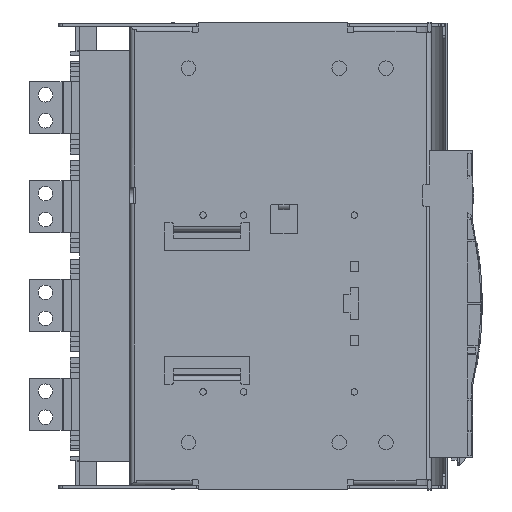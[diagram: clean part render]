
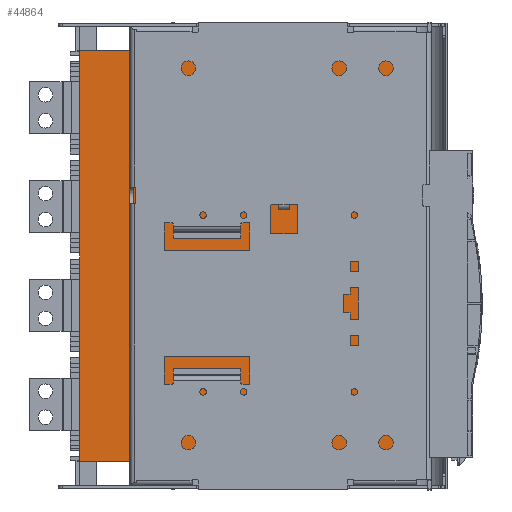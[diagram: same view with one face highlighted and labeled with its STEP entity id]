
A CAD part, front view. The second image highlights one B-rep face of the part: STEP entity #44864.
In plain terms, the highlighted planar face has unit normal (0, -1, 0).
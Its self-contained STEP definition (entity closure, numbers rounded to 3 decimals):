
#510 = ORIENTED_EDGE ( 'NONE', *, *, #69627, .F. ) ;
#1213 = ORIENTED_EDGE ( 'NONE', *, *, #48676, .F. ) ;
#1233 = VERTEX_POINT ( 'NONE', #19082 ) ;
#1455 = LINE ( 'NONE', #71599, #60189 ) ;
#1661 = LINE ( 'NONE', #10280, #85812 ) ;
#2393 = DIRECTION ( 'NONE',  ( 0., 0., -1. ) ) ;
#4701 = LINE ( 'NONE', #90667, #87469 ) ;
#5225 = ORIENTED_EDGE ( 'NONE', *, *, #50049, .T. ) ;
#5983 = VECTOR ( 'NONE', #37550, 1000. ) ;
#6451 = ORIENTED_EDGE ( 'NONE', *, *, #90234, .T. ) ;
#6669 = VERTEX_POINT ( 'NONE', #81839 ) ;
#7259 = EDGE_CURVE ( 'NONE', #1233, #75894, #30712, .T. ) ;
#8349 = VECTOR ( 'NONE', #13803, 1000. ) ;
#10157 = EDGE_CURVE ( 'NONE', #46486, #67934, #100780, .T. ) ;
#10280 = CARTESIAN_POINT ( 'NONE',  ( 264.156, 215.613, 284.898 ) ) ;
#10599 = CARTESIAN_POINT ( 'NONE',  ( 212.646, 215.613, 245.93 ) ) ;
#11008 = LINE ( 'NONE', #40650, #13534 ) ;
#11365 = ORIENTED_EDGE ( 'NONE', *, *, #18740, .T. ) ;
#11772 = DIRECTION ( 'NONE',  ( 0., -1., 0. ) ) ;
#12267 = LINE ( 'NONE', #47244, #8349 ) ;
#13534 = VECTOR ( 'NONE', #40309, 1000. ) ;
#13535 = CARTESIAN_POINT ( 'NONE',  ( 260.956, 215.613, 189.113 ) ) ;
#13803 = DIRECTION ( 'NONE',  ( 0., 0., -1. ) ) ;
#14701 = CARTESIAN_POINT ( 'NONE',  ( 999.802, 215.613, 245.93 ) ) ;
#15183 = CARTESIAN_POINT ( 'NONE',  ( 526.457, 215.613, -149.154 ) ) ;
#15292 = DIRECTION ( 'NONE',  ( -1., 0., 0. ) ) ;
#16839 = VERTEX_POINT ( 'NONE', #53387 ) ;
#18740 = EDGE_CURVE ( 'NONE', #86647, #89015, #1455, .T. ) ;
#19082 = CARTESIAN_POINT ( 'NONE',  ( 526.457, 215.613, 149.688 ) ) ;
#19140 = DIRECTION ( 'NONE',  ( 0., 0., 1. ) ) ;
#21786 = CARTESIAN_POINT ( 'NONE',  ( 260.956, 215.613, 245.93 ) ) ;
#21800 = ORIENTED_EDGE ( 'NONE', *, *, #34006, .F. ) ;
#22678 = DIRECTION ( 'NONE',  ( 0., 0., 1. ) ) ;
#23763 = CARTESIAN_POINT ( 'NONE',  ( 999.802, 215.613, -149.154 ) ) ;
#26910 = LINE ( 'NONE', #45141, #48551 ) ;
#27864 = VERTEX_POINT ( 'NONE', #30322 ) ;
#28499 = LINE ( 'NONE', #13535, #93494 ) ;
#28716 = AXIS2_PLACEMENT_3D ( 'NONE', #92202, #11772, #100362 ) ;
#30204 = VERTEX_POINT ( 'NONE', #45540 ) ;
#30322 = CARTESIAN_POINT ( 'NONE',  ( 526.457, 215.613, -149.154 ) ) ;
#30712 = LINE ( 'NONE', #15183, #66450 ) ;
#31177 = DIRECTION ( 'NONE',  ( -1., 0., 0. ) ) ;
#32027 = EDGE_CURVE ( 'NONE', #27864, #6669, #26910, .T. ) ;
#32689 = VECTOR ( 'NONE', #55951, 1000. ) ;
#34006 = EDGE_CURVE ( 'NONE', #100664, #46486, #28499, .T. ) ;
#35263 = PLANE ( 'NONE',  #28716 ) ;
#37550 = DIRECTION ( 'NONE',  ( -1., 0., 0. ) ) ;
#38031 = FACE_OUTER_BOUND ( 'NONE', #59972, .T. ) ;
#38663 = ORIENTED_EDGE ( 'NONE', *, *, #32027, .T. ) ;
#40309 = DIRECTION ( 'NONE',  ( 0., 0., -1. ) ) ;
#40430 = ORIENTED_EDGE ( 'NONE', *, *, #64371, .F. ) ;
#40650 = CARTESIAN_POINT ( 'NONE',  ( 264.156, 215.613, 284.898 ) ) ;
#41166 = ORIENTED_EDGE ( 'NONE', *, *, #7259, .T. ) ;
#41582 = LINE ( 'NONE', #23763, #54449 ) ;
#43895 = ORIENTED_EDGE ( 'NONE', *, *, #10157, .F. ) ;
#44864 = ADVANCED_FACE ( 'NONE', ( #38031 ), #35263, .T. ) ;
#45141 = CARTESIAN_POINT ( 'NONE',  ( 526.457, 215.613, -149.154 ) ) ;
#45540 = CARTESIAN_POINT ( 'NONE',  ( 260.956, 215.613, 221.262 ) ) ;
#45818 = VERTEX_POINT ( 'NONE', #84661 ) ;
#46486 = VERTEX_POINT ( 'NONE', #105175 ) ;
#47244 = CARTESIAN_POINT ( 'NONE',  ( 260.956, 215.613, 284.898 ) ) ;
#48551 = VECTOR ( 'NONE', #85090, 1000. ) ;
#48676 = EDGE_CURVE ( 'NONE', #30204, #90899, #76109, .T. ) ;
#49364 = LINE ( 'NONE', #14701, #69891 ) ;
#50049 = EDGE_CURVE ( 'NONE', #100664, #45818, #1661, .T. ) ;
#51050 = EDGE_CURVE ( 'NONE', #16839, #90899, #11008, .T. ) ;
#52143 = CARTESIAN_POINT ( 'NONE',  ( 212.646, 215.613, -149.154 ) ) ;
#52418 = VERTEX_POINT ( 'NONE', #52143 ) ;
#53387 = CARTESIAN_POINT ( 'NONE',  ( 264.156, 215.613, 245.93 ) ) ;
#54449 = VECTOR ( 'NONE', #31177, 1000. ) ;
#55951 = DIRECTION ( 'NONE',  ( 1., 0., 0. ) ) ;
#58272 = LINE ( 'NONE', #86354, #5983 ) ;
#59972 = EDGE_LOOP ( 'NONE', ( #43895, #21800, #5225, #78964, #38663, #40430, #41166, #6451, #63024, #1213, #92991, #11365, #84050, #510 ) ) ;
#60189 = VECTOR ( 'NONE', #15292, 1000. ) ;
#62701 = LINE ( 'NONE', #100257, #78059 ) ;
#63024 = ORIENTED_EDGE ( 'NONE', *, *, #51050, .T. ) ;
#63721 = CARTESIAN_POINT ( 'NONE',  ( 260.956, 215.613, 221.262 ) ) ;
#64371 = EDGE_CURVE ( 'NONE', #1233, #6669, #4701, .T. ) ;
#66450 = VECTOR ( 'NONE', #22678, 1000. ) ;
#67934 = VERTEX_POINT ( 'NONE', #86692 ) ;
#69627 = EDGE_CURVE ( 'NONE', #67934, #52418, #58272, .T. ) ;
#69891 = VECTOR ( 'NONE', #80584, 1000. ) ;
#71599 = CARTESIAN_POINT ( 'NONE',  ( 999.802, 215.613, 245.93 ) ) ;
#74722 = DIRECTION ( 'NONE',  ( 0., 0., -1. ) ) ;
#75894 = VERTEX_POINT ( 'NONE', #85249 ) ;
#76109 = LINE ( 'NONE', #63721, #32689 ) ;
#78059 = VECTOR ( 'NONE', #19140, 1000. ) ;
#78160 = CARTESIAN_POINT ( 'NONE',  ( 264.156, 215.613, 189.113 ) ) ;
#78964 = ORIENTED_EDGE ( 'NONE', *, *, #81445, .F. ) ;
#79156 = VECTOR ( 'NONE', #81090, 1000. ) ;
#80584 = DIRECTION ( 'NONE',  ( -1., 0., 0. ) ) ;
#81090 = DIRECTION ( 'NONE',  ( 0., 0., -1. ) ) ;
#81445 = EDGE_CURVE ( 'NONE', #27864, #45818, #41582, .T. ) ;
#81839 = CARTESIAN_POINT ( 'NONE',  ( 526.457, 215.613, -145.312 ) ) ;
#82227 = EDGE_CURVE ( 'NONE', #86647, #30204, #12267, .T. ) ;
#84050 = ORIENTED_EDGE ( 'NONE', *, *, #85753, .F. ) ;
#84661 = CARTESIAN_POINT ( 'NONE',  ( 264.156, 215.613, -149.154 ) ) ;
#85090 = DIRECTION ( 'NONE',  ( 0., 0., 1. ) ) ;
#85249 = CARTESIAN_POINT ( 'NONE',  ( 526.457, 215.613, 245.93 ) ) ;
#85753 = EDGE_CURVE ( 'NONE', #52418, #89015, #62701, .T. ) ;
#85812 = VECTOR ( 'NONE', #2393, 1000. ) ;
#86354 = CARTESIAN_POINT ( 'NONE',  ( 999.802, 215.613, -149.154 ) ) ;
#86647 = VERTEX_POINT ( 'NONE', #21786 ) ;
#86692 = CARTESIAN_POINT ( 'NONE',  ( 260.956, 215.613, -149.154 ) ) ;
#87469 = VECTOR ( 'NONE', #74722, 1000. ) ;
#89015 = VERTEX_POINT ( 'NONE', #10599 ) ;
#90234 = EDGE_CURVE ( 'NONE', #75894, #16839, #49364, .T. ) ;
#90667 = CARTESIAN_POINT ( 'NONE',  ( 526.457, 215.613, 159.188 ) ) ;
#90899 = VERTEX_POINT ( 'NONE', #97109 ) ;
#92202 = CARTESIAN_POINT ( 'NONE',  ( 999.802, 215.613, -149.154 ) ) ;
#92991 = ORIENTED_EDGE ( 'NONE', *, *, #82227, .F. ) ;
#93494 = VECTOR ( 'NONE', #104573, 1000. ) ;
#96015 = CARTESIAN_POINT ( 'NONE',  ( 260.956, 215.613, 284.898 ) ) ;
#97109 = CARTESIAN_POINT ( 'NONE',  ( 264.156, 215.613, 221.262 ) ) ;
#100257 = CARTESIAN_POINT ( 'NONE',  ( 212.646, 215.613, -149.154 ) ) ;
#100362 = DIRECTION ( 'NONE',  ( 0., 0., -1. ) ) ;
#100664 = VERTEX_POINT ( 'NONE', #78160 ) ;
#100780 = LINE ( 'NONE', #96015, #79156 ) ;
#104573 = DIRECTION ( 'NONE',  ( -1., 0., 0. ) ) ;
#105175 = CARTESIAN_POINT ( 'NONE',  ( 260.956, 215.613, 189.113 ) ) ;
